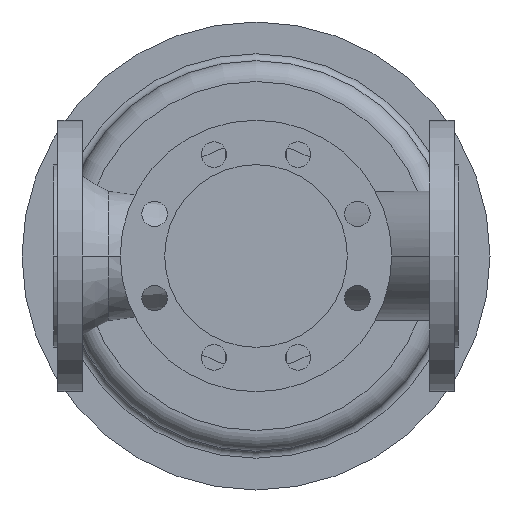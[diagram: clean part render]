
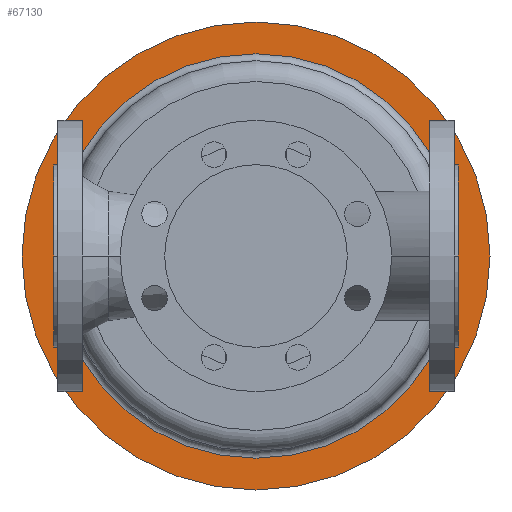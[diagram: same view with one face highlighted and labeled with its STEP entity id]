
A CAD part, front view. The second image highlights one B-rep face of the part: STEP entity #67130.
In plain terms, the highlighted planar face has unit normal (0, -1, 0).
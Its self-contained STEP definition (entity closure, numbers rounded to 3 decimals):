
#54740=CARTESIAN_POINT('',(377.5,849.7,0.));
#54750=VERTEX_POINT('',#54740);
#54910=CARTESIAN_POINT('',(-27.5,849.7,0.));
#54920=VERTEX_POINT('',#54910);
#54950=CARTESIAN_POINT('',(175.,849.7,0.));
#54960=DIRECTION('',(0.,1.,0.));
#54970=DIRECTION('',(1.,0.,0.));
#54980=AXIS2_PLACEMENT_3D('',#54950,#54960,#54970);
#54990=CIRCLE('',#54980,202.5);
#55000=EDGE_CURVE('',#54750,#54920,#54990,.T.);
#55170=CARTESIAN_POINT('',(350.,849.7,0.));
#55180=VERTEX_POINT('',#55170);
#55210=CARTESIAN_POINT('',(175.,849.7,0.));
#55220=DIRECTION('',(0.,1.,0.));
#55230=DIRECTION('',(1.,0.,0.));
#55240=AXIS2_PLACEMENT_3D('',#55210,#55220,#55230);
#55250=CIRCLE('',#55240,175.);
#55260=CARTESIAN_POINT('',(0.,849.7,
0.));
#55270=VERTEX_POINT('',#55260);
#55280=EDGE_CURVE('',#55180,#55270,#55250,.T.);
#66940=CARTESIAN_POINT('',(363.75,849.7,0.));
#66950=DIRECTION('',(0.,-1.,0.));
#66960=DIRECTION('',(-1.,0.,0.));
#66970=AXIS2_PLACEMENT_3D('',#66940,#66950,#66960);
#66980=PLANE('',#66970);
#66990=EDGE_CURVE('',#54920,#54750,#54990,.T.);
#67000=ORIENTED_EDGE('',*,*,#66990,.F.);
#67010=ORIENTED_EDGE('',*,*,#55000,.F.);
#67020=EDGE_LOOP('',(#67010,#67000));
#67030=FACE_OUTER_BOUND('',#67020,.T.);
#67040=ORIENTED_EDGE('',*,*,#55280,.T.);
#67050=CARTESIAN_POINT('',(175.,849.7,175.));
#67060=VERTEX_POINT('',#67050);
#67070=EDGE_CURVE('',#67060,#55180,#55250,.T.);
#67080=ORIENTED_EDGE('',*,*,#67070,.T.);
#67090=EDGE_CURVE('',#55270,#67060,#55250,.T.);
#67100=ORIENTED_EDGE('',*,*,#67090,.T.);
#67110=EDGE_LOOP('',(#67100,#67080,#67040));
#67120=FACE_BOUND('',#67110,.T.);
#67130=ADVANCED_FACE('',(#67030,#67120),#66980,.T.);
